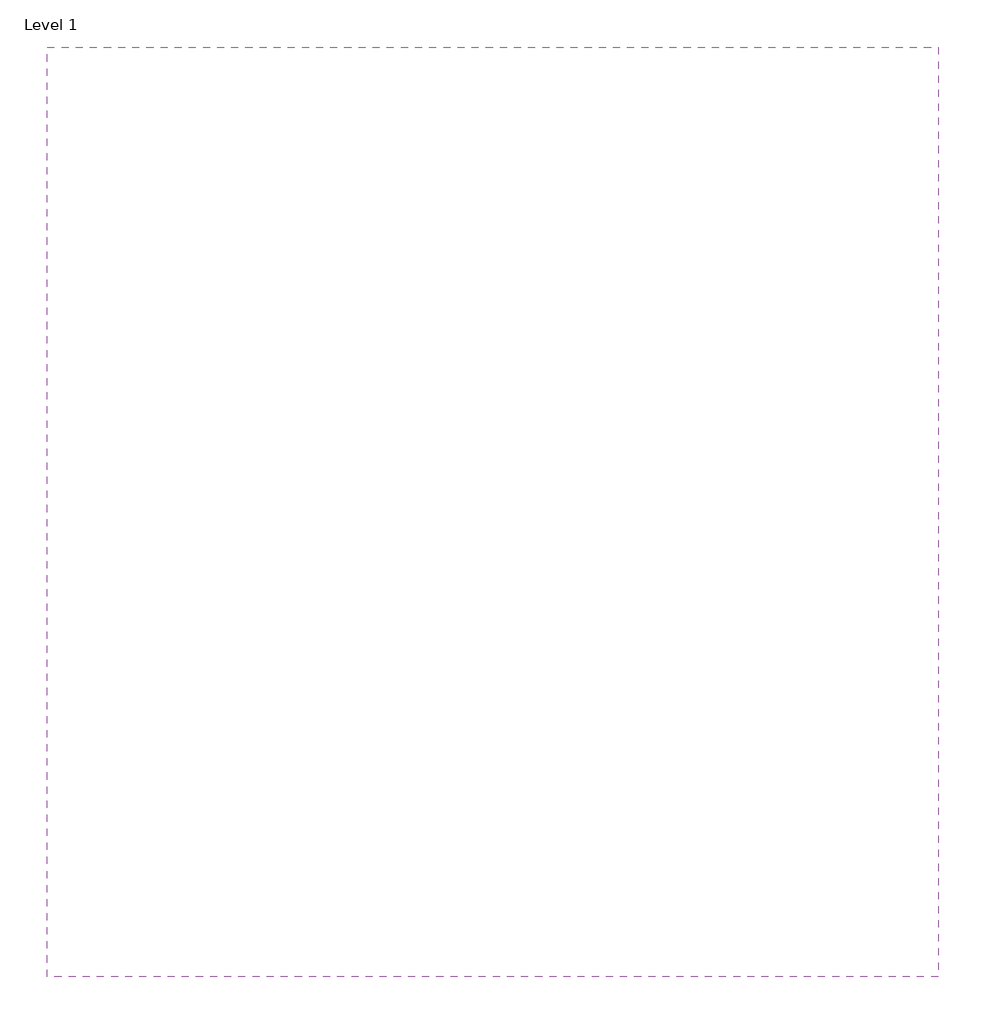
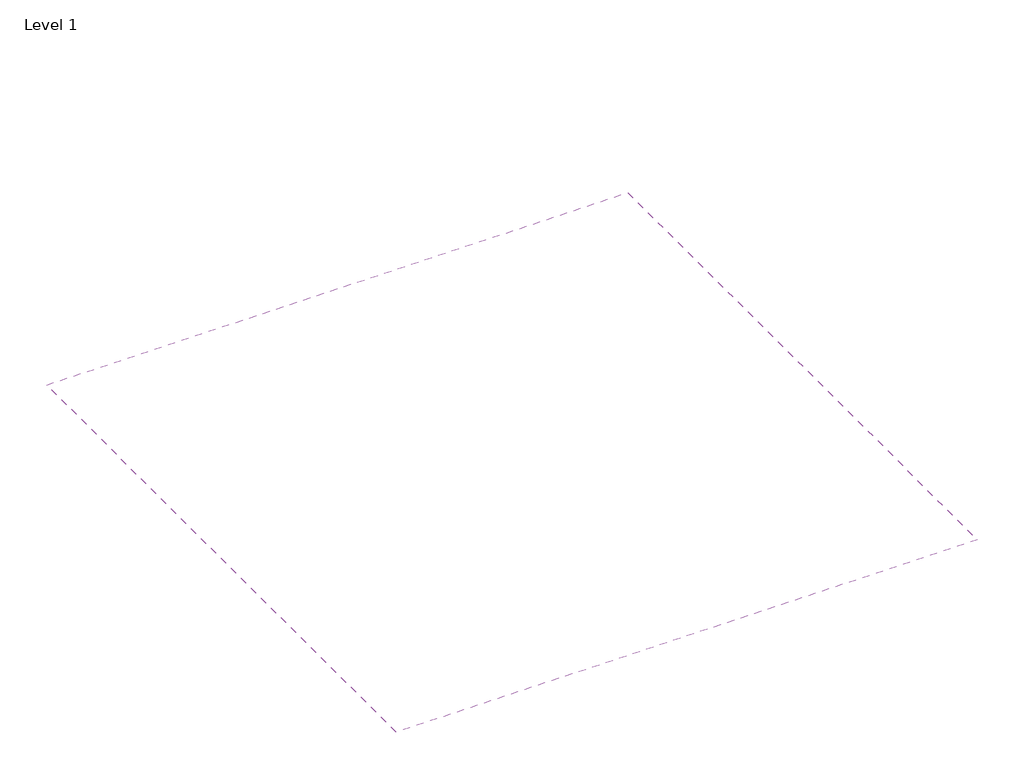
# One storey: 1 covering.
"""IFC4 building model written with IfcOpenShell, lengths in millimetres."""

from ifc_helpers import new_model, si_unit, frame, origin, place, context, project, spatial, polyline, outline, extrude, element, save

model = new_model("IFC4")

# Units and contexts
model_context = context("Model", 3, world=origin())
ifc_project = project(units=[si_unit("LENGTHUNIT", "METRE", prefix="MILLI")], contexts=[model_context])

# Site, building, storey
site = spatial("IfcSite", under=ifc_project)
building = spatial("IfcBuilding", under=site)
storey = spatial("IfcBuildingStorey", under=building, Name="Level 1", Elevation=0.0)

# Covering
placement = place(None, origin())
element("IfcCovering", 1, ObjectType="2 x Megaplac PPF 25", at=placement, inside=storey, context=model_context, shape_type="SweptSolid", body=[
    extrude(outline(polyline([(-5115.2715037, -27116.2486083), (-6055.2715037, -27116.2486083), (-6055.2715037, -26136.2486083), (-5115.2715037, -26136.2486083), (-5115.2715037, -27116.2486083)])), frame((0.0, 0.0, 2600.0), z_axis=(0.0, 0.0, 1.0), x_axis=(1.0, 0.0, 0.0)), (0.0, 0.0, 1.0), 250.0),
])

save(model, "model.ifc")
